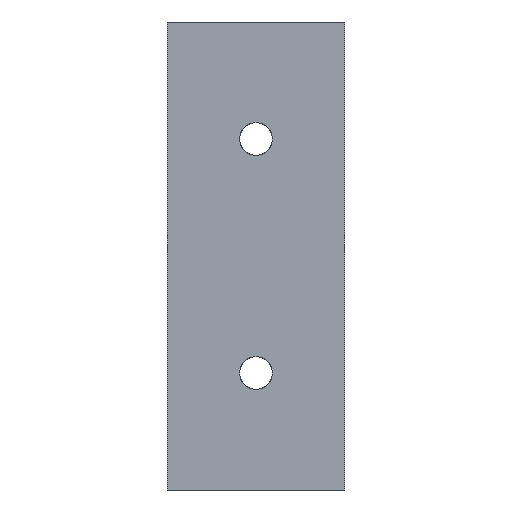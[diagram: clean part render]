
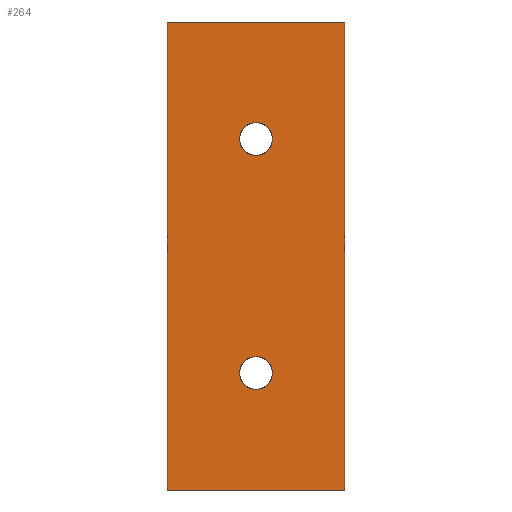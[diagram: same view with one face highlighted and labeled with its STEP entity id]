
A CAD part, front view. The second image highlights one B-rep face of the part: STEP entity #264.
In plain terms, the highlighted face is a extrusion surface.
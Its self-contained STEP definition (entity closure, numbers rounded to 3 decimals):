
#141=CARTESIAN_POINT('Control Point',(-19.,-5.,50.)) ;
#142=CARTESIAN_POINT('Control Point',(-19.,-5.,-50.)) ;
#146=CARTESIAN_POINT('Line Origine',(0.,-5.,-50.)) ;
#150=CARTESIAN_POINT('Vertex',(-19.,-5.,-50.)) ;
#152=CARTESIAN_POINT('Vertex',(19.,-5.,-50.)) ;
#155=CARTESIAN_POINT('Line Origine',(19.,-5.,0.)) ;
#159=CARTESIAN_POINT('Vertex',(19.,-5.,50.)) ;
#162=CARTESIAN_POINT('Line Origine',(0.,-5.,50.)) ;
#166=CARTESIAN_POINT('Vertex',(-19.,-5.,50.)) ;
#169=CARTESIAN_POINT('Line Origine',(-19.,-5.,0.)) ;
#181=CARTESIAN_POINT('Control Point',(3.5,-5.,25.)) ;
#182=CARTESIAN_POINT('Control Point',(3.5,-5.,24.267)) ;
#183=CARTESIAN_POINT('Control Point',(3.308,-5.,23.534)) ;
#184=CARTESIAN_POINT('Control Point',(2.923,-5.,22.868)) ;
#185=CARTESIAN_POINT('Control Point',(2.115,-5.,22.069)) ;
#186=CARTESIAN_POINT('Control Point',(1.09,-5.,21.644)) ;
#187=CARTESIAN_POINT('Control Point',(0.732,-5.,21.548)) ;
#188=CARTESIAN_POINT('Control Point',(-0.001,-5.,21.452)) ;
#189=CARTESIAN_POINT('Control Point',(-0.734,-5.,21.548)) ;
#190=CARTESIAN_POINT('Control Point',(-1.093,-5.,21.644)) ;
#191=CARTESIAN_POINT('Control Point',(-2.116,-5.,22.07)) ;
#192=CARTESIAN_POINT('Control Point',(-2.924,-5.,22.869)) ;
#193=CARTESIAN_POINT('Control Point',(-3.308,-5.,23.535)) ;
#194=CARTESIAN_POINT('Control Point',(-3.5,-5.,24.267)) ;
#195=CARTESIAN_POINT('Control Point',(-3.5,-5.,25.)) ;
#196=CARTESIAN_POINT('Vertex',(3.5,-5.,25.)) ;
#198=CARTESIAN_POINT('Vertex',(-3.5,-5.,25.)) ;
#202=CARTESIAN_POINT('Control Point',(-3.5,-5.,25.)) ;
#203=CARTESIAN_POINT('Control Point',(-3.5,-5.,25.733)) ;
#204=CARTESIAN_POINT('Control Point',(-3.308,-5.,26.466)) ;
#205=CARTESIAN_POINT('Control Point',(-2.923,-5.,27.132)) ;
#206=CARTESIAN_POINT('Control Point',(-2.115,-5.,27.931)) ;
#207=CARTESIAN_POINT('Control Point',(-1.09,-5.,28.356)) ;
#208=CARTESIAN_POINT('Control Point',(-0.732,-5.,28.452)) ;
#209=CARTESIAN_POINT('Control Point',(0.001,-5.,28.548)) ;
#210=CARTESIAN_POINT('Control Point',(0.734,-5.,28.452)) ;
#211=CARTESIAN_POINT('Control Point',(1.093,-5.,28.356)) ;
#212=CARTESIAN_POINT('Control Point',(2.116,-5.,27.93)) ;
#213=CARTESIAN_POINT('Control Point',(2.924,-5.,27.131)) ;
#214=CARTESIAN_POINT('Control Point',(3.308,-5.,26.465)) ;
#215=CARTESIAN_POINT('Control Point',(3.5,-5.,25.733)) ;
#216=CARTESIAN_POINT('Control Point',(3.5,-5.,25.)) ;
#223=CARTESIAN_POINT('Control Point',(3.5,-5.,-25.)) ;
#224=CARTESIAN_POINT('Control Point',(3.5,-5.,-25.733)) ;
#225=CARTESIAN_POINT('Control Point',(3.308,-5.,-26.466)) ;
#226=CARTESIAN_POINT('Control Point',(2.923,-5.,-27.132)) ;
#227=CARTESIAN_POINT('Control Point',(2.115,-5.,-27.931)) ;
#228=CARTESIAN_POINT('Control Point',(1.09,-5.,-28.356)) ;
#229=CARTESIAN_POINT('Control Point',(0.732,-5.,-28.452)) ;
#230=CARTESIAN_POINT('Control Point',(-0.001,-5.,-28.548)) ;
#231=CARTESIAN_POINT('Control Point',(-0.734,-5.,-28.452)) ;
#232=CARTESIAN_POINT('Control Point',(-1.093,-5.,-28.356)) ;
#233=CARTESIAN_POINT('Control Point',(-2.116,-5.,-27.93)) ;
#234=CARTESIAN_POINT('Control Point',(-2.924,-5.,-27.131)) ;
#235=CARTESIAN_POINT('Control Point',(-3.308,-5.,-26.465)) ;
#236=CARTESIAN_POINT('Control Point',(-3.5,-5.,-25.733)) ;
#237=CARTESIAN_POINT('Control Point',(-3.5,-5.,-25.)) ;
#238=CARTESIAN_POINT('Vertex',(3.5,-5.,-25.)) ;
#240=CARTESIAN_POINT('Vertex',(-3.5,-5.,-25.)) ;
#244=CARTESIAN_POINT('Control Point',(-3.5,-5.,-25.)) ;
#245=CARTESIAN_POINT('Control Point',(-3.5,-5.,-24.267)) ;
#246=CARTESIAN_POINT('Control Point',(-3.308,-5.,-23.534)) ;
#247=CARTESIAN_POINT('Control Point',(-2.923,-5.,-22.868)) ;
#248=CARTESIAN_POINT('Control Point',(-2.115,-5.,-22.069)) ;
#249=CARTESIAN_POINT('Control Point',(-1.09,-5.,-21.644)) ;
#250=CARTESIAN_POINT('Control Point',(-0.732,-5.,-21.548)) ;
#251=CARTESIAN_POINT('Control Point',(0.001,-5.,-21.452)) ;
#252=CARTESIAN_POINT('Control Point',(0.734,-5.,-21.548)) ;
#253=CARTESIAN_POINT('Control Point',(1.093,-5.,-21.644)) ;
#254=CARTESIAN_POINT('Control Point',(2.116,-5.,-22.07)) ;
#255=CARTESIAN_POINT('Control Point',(2.924,-5.,-22.869)) ;
#256=CARTESIAN_POINT('Control Point',(3.308,-5.,-23.535)) ;
#257=CARTESIAN_POINT('Control Point',(3.5,-5.,-24.267)) ;
#258=CARTESIAN_POINT('Control Point',(3.5,-5.,-25.)) ;
#143=DIRECTION('Vector Direction',(1.,0.,0.)) ;
#147=DIRECTION('Vector Direction',(1.,0.,0.)) ;
#156=DIRECTION('Vector Direction',(0.,0.,-1.)) ;
#163=DIRECTION('Vector Direction',(1.,0.,0.)) ;
#170=DIRECTION('Vector Direction',(0.,0.,-1.)) ;
#175=ORIENTED_EDGE('',*,*,#154,.T.) ;
#176=ORIENTED_EDGE('',*,*,#161,.T.) ;
#177=ORIENTED_EDGE('',*,*,#168,.T.) ;
#178=ORIENTED_EDGE('',*,*,#173,.T.) ;
#219=ORIENTED_EDGE('',*,*,#200,.T.) ;
#220=ORIENTED_EDGE('',*,*,#217,.T.) ;
#261=ORIENTED_EDGE('',*,*,#242,.T.) ;
#262=ORIENTED_EDGE('',*,*,#259,.T.) ;
#221=FACE_BOUND('',#218,.T.) ;
#263=FACE_BOUND('',#260,.T.) ;
#144=VECTOR('Extrusion Surface Vector',#143,1.) ;
#148=VECTOR('Line Direction',#147,1.) ;
#157=VECTOR('Line Direction',#156,1.) ;
#164=VECTOR('Line Direction',#163,1.) ;
#171=VECTOR('Line Direction',#170,1.) ;
#264=ADVANCED_FACE('Superficie.3',(#179,#221,#263),#145,.T.) ;
#140=B_SPLINE_CURVE_WITH_KNOTS('',1,(#141,#142),.UNSPECIFIED.,.F.,.U.,(2,2),(-50.,50.),.UNSPECIFIED.) ;
#180=B_SPLINE_CURVE_WITH_KNOTS('',5,(#181,#182,#183,#184,#185,#186,#187,#188,#189,#190,#191,#192,#193,#194,#195),.UNSPECIFIED.,.F.,.U.,(6,3,3,3,6),(0.,5.185,7.777,10.369,15.55),.UNSPECIFIED.) ;
#201=B_SPLINE_CURVE_WITH_KNOTS('',5,(#202,#203,#204,#205,#206,#207,#208,#209,#210,#211,#212,#213,#214,#215,#216),.UNSPECIFIED.,.F.,.U.,(6,3,3,3,6),(0.,5.185,7.777,10.369,15.55),.UNSPECIFIED.) ;
#222=B_SPLINE_CURVE_WITH_KNOTS('',5,(#223,#224,#225,#226,#227,#228,#229,#230,#231,#232,#233,#234,#235,#236,#237),.UNSPECIFIED.,.F.,.U.,(6,3,3,3,6),(0.,5.185,7.777,10.369,15.55),.UNSPECIFIED.) ;
#243=B_SPLINE_CURVE_WITH_KNOTS('',5,(#244,#245,#246,#247,#248,#249,#250,#251,#252,#253,#254,#255,#256,#257,#258),.UNSPECIFIED.,.F.,.U.,(6,3,3,3,6),(0.,5.185,7.777,10.369,15.55),.UNSPECIFIED.) ;
#154=EDGE_CURVE('',#151,#153,#149,.T.) ;
#161=EDGE_CURVE('',#153,#160,#158,.F.) ;
#168=EDGE_CURVE('',#160,#167,#165,.F.) ;
#173=EDGE_CURVE('',#167,#151,#172,.T.) ;
#200=EDGE_CURVE('',#197,#199,#180,.T.) ;
#217=EDGE_CURVE('',#199,#197,#201,.T.) ;
#242=EDGE_CURVE('',#239,#241,#222,.T.) ;
#259=EDGE_CURVE('',#241,#239,#243,.T.) ;
#174=EDGE_LOOP('',(#175,#176,#177,#178)) ;
#218=EDGE_LOOP('',(#219,#220)) ;
#260=EDGE_LOOP('',(#261,#262)) ;
#179=FACE_OUTER_BOUND('',#174,.T.) ;
#149=LINE('Line',#146,#148) ;
#158=LINE('Line',#155,#157) ;
#165=LINE('Line',#162,#164) ;
#172=LINE('Line',#169,#171) ;
#145=SURFACE_OF_LINEAR_EXTRUSION('generated tabulated cylinder',#140,#144) ;
#151=VERTEX_POINT('',#150) ;
#153=VERTEX_POINT('',#152) ;
#160=VERTEX_POINT('',#159) ;
#167=VERTEX_POINT('',#166) ;
#197=VERTEX_POINT('',#196) ;
#199=VERTEX_POINT('',#198) ;
#239=VERTEX_POINT('',#238) ;
#241=VERTEX_POINT('',#240) ;
